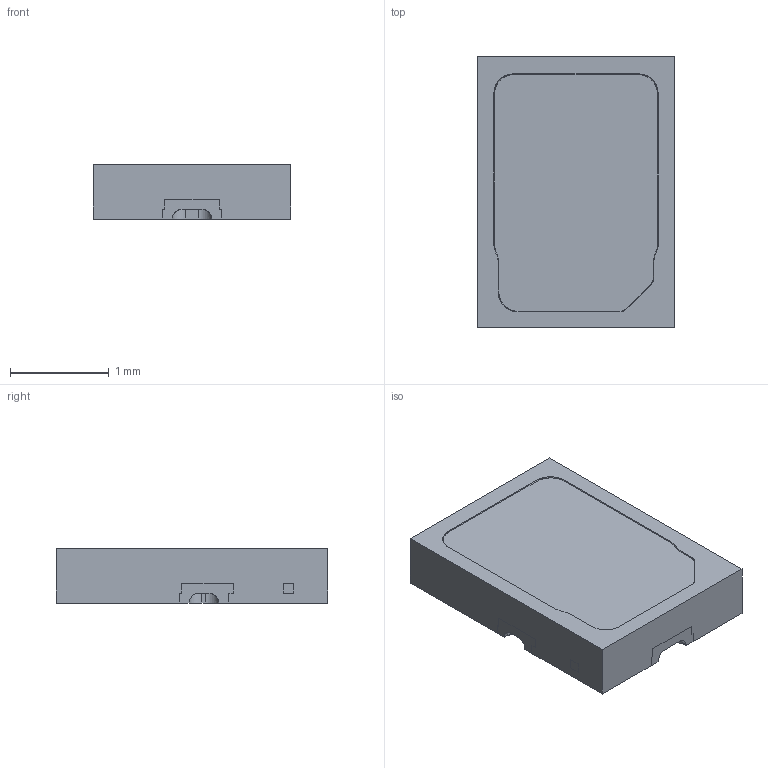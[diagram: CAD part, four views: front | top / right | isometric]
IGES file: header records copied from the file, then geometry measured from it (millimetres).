
Start section: SolidWorks IGES file using analytic representation for surfaces
Global section: file name: K:\02.じン祘\20.瓜郎戈畐\08.3D瓜郎\02.STL\04.Ceramic 2720\EOH-HMPUCEA-KL\EOH-HMPUCEA-KL_A00.IGS; native system: SolidWorks 2018; preprocessor: SolidWorks 2018; author: WeberShen; date: 200323.132030; units: centimetre
Bounding box: 2 x 2.75 x 0.55 mm (x, y, z)
Surface area: 16.5 mm2 (no closed solid volume)
Topology: 0 solids, 0 shells, 62 faces, 672 edges, 669 vertices
Faces by surface type: bspline 35, revolution 27
